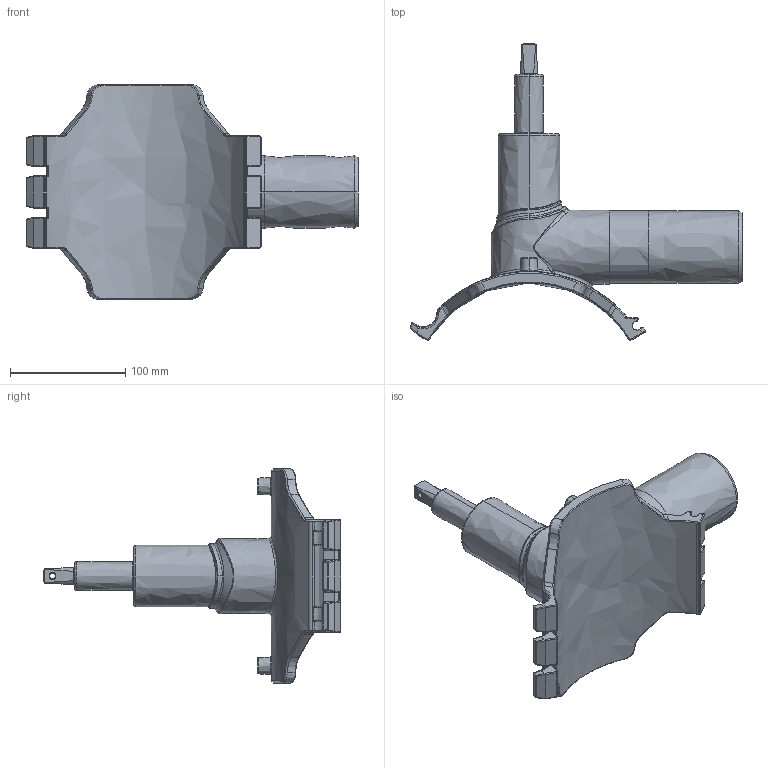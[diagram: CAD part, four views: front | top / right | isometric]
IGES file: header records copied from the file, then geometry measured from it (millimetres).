
Start section:  PTC IGES file: dav2_d200_63_01.igs
Global section: file name: dav2_d200_63_01.igs; native system: Creo Parametric by PTC Inc.; preprocessor: 2019030; author: demmerls; organization: Unknown; date: 20201126.151404; units: millimetre
Bounding box: 288.36 x 258.2 x 186 mm (x, y, z)
Surface area: 150672.3 mm2 (no closed solid volume)
Topology: 0 solids, 0 shells, 567 faces, 2758 edges, 2752 vertices
Faces by surface type: bspline 567
